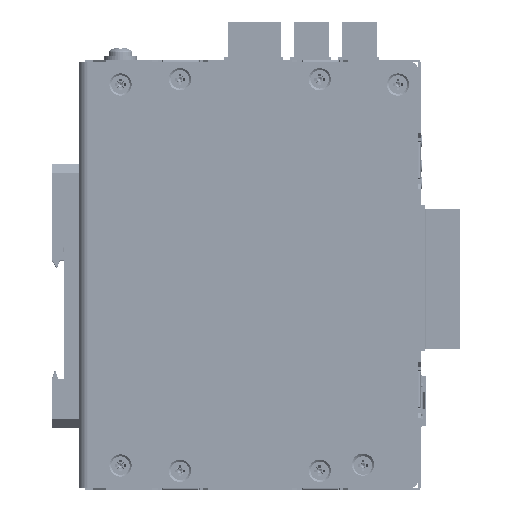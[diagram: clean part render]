
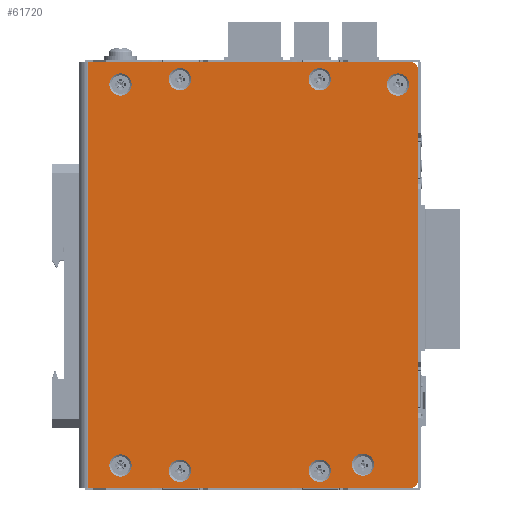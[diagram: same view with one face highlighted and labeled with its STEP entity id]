
A CAD part, left-side view. The second image highlights one B-rep face of the part: STEP entity #61720.
In plain terms, the highlighted planar face has unit normal (-1, 0, 0).
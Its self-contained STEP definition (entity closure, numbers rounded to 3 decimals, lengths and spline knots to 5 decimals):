
#7114=LINE('',#113969,#12700);
#7119=LINE('',#113979,#12705);
#7120=LINE('',#113980,#12706);
#7121=LINE('',#113981,#12707);
#12700=VECTOR('',#84941,1.);
#12705=VECTOR('',#84952,1.);
#12706=VECTOR('',#84953,1.);
#12707=VECTOR('',#84954,1.);
#14774=PLANE('',#67994);
#32775=ORIENTED_EDGE('',*,*,#41519,.F.);
#32776=ORIENTED_EDGE('',*,*,#41454,.T.);
#32777=ORIENTED_EDGE('',*,*,#41520,.T.);
#32778=ORIENTED_EDGE('',*,*,#41446,.T.);
#32779=ORIENTED_EDGE('',*,*,#41521,.T.);
#32780=ORIENTED_EDGE('',*,*,#41513,.T.);
#32781=ORIENTED_EDGE('',*,*,#41488,.F.);
#32782=ORIENTED_EDGE('',*,*,#41485,.F.);
#32783=ORIENTED_EDGE('',*,*,#41482,.F.);
#32784=ORIENTED_EDGE('',*,*,#41479,.F.);
#32785=ORIENTED_EDGE('',*,*,#41476,.F.);
#32786=ORIENTED_EDGE('',*,*,#41473,.F.);
#32787=ORIENTED_EDGE('',*,*,#41470,.F.);
#32788=ORIENTED_EDGE('',*,*,#41467,.F.);
#41446=EDGE_CURVE('',#47348,#47347,#49660,.T.);
#41454=EDGE_CURVE('',#47356,#47355,#49664,.T.);
#41467=EDGE_CURVE('',#47368,#47368,#49674,.T.);
#41470=EDGE_CURVE('',#47371,#47371,#49677,.T.);
#41473=EDGE_CURVE('',#47374,#47374,#49680,.T.);
#41476=EDGE_CURVE('',#47377,#47377,#49683,.T.);
#41479=EDGE_CURVE('',#47380,#47380,#49686,.T.);
#41482=EDGE_CURVE('',#47383,#47383,#49689,.T.);
#41485=EDGE_CURVE('',#47386,#47386,#49692,.T.);
#41488=EDGE_CURVE('',#47389,#47389,#49695,.T.);
#41513=EDGE_CURVE('',#47415,#47414,#7114,.T.);
#41519=EDGE_CURVE('',#47356,#47414,#7119,.T.);
#41520=EDGE_CURVE('',#47355,#47348,#7120,.T.);
#41521=EDGE_CURVE('',#47347,#47415,#7121,.T.);
#47347=VERTEX_POINT('',#113798);
#47348=VERTEX_POINT('',#113800);
#47355=VERTEX_POINT('',#113816);
#47356=VERTEX_POINT('',#113818);
#47368=VERTEX_POINT('',#113849);
#47371=VERTEX_POINT('',#113857);
#47374=VERTEX_POINT('',#113865);
#47377=VERTEX_POINT('',#113873);
#47380=VERTEX_POINT('',#113881);
#47383=VERTEX_POINT('',#113889);
#47386=VERTEX_POINT('',#113897);
#47389=VERTEX_POINT('',#113905);
#47414=VERTEX_POINT('',#113968);
#47415=VERTEX_POINT('',#113970);
#49660=CIRCLE('',#67898,0.00254);
#49664=CIRCLE('',#67904,0.00254);
#49674=CIRCLE('',#67920,0.00324);
#49677=CIRCLE('',#67925,0.00324);
#49680=CIRCLE('',#67930,0.00324);
#49683=CIRCLE('',#67935,0.00324);
#49686=CIRCLE('',#67940,0.00324);
#49689=CIRCLE('',#67945,0.00324);
#49692=CIRCLE('',#67950,0.00324);
#49695=CIRCLE('',#67955,0.00324);
#53986=EDGE_LOOP('',(#32775,#32776,#32777,#32778,#32779,#32780));
#53987=EDGE_LOOP('',(#32781));
#53988=EDGE_LOOP('',(#32782));
#53989=EDGE_LOOP('',(#32783));
#53990=EDGE_LOOP('',(#32784));
#53991=EDGE_LOOP('',(#32785));
#53992=EDGE_LOOP('',(#32786));
#53993=EDGE_LOOP('',(#32787));
#53994=EDGE_LOOP('',(#32788));
#58289=FACE_BOUND('',#53986,.T.);
#58290=FACE_BOUND('',#53987,.T.);
#58291=FACE_BOUND('',#53988,.T.);
#58292=FACE_BOUND('',#53989,.T.);
#58293=FACE_BOUND('',#53990,.T.);
#58294=FACE_BOUND('',#53991,.T.);
#58295=FACE_BOUND('',#53992,.T.);
#58296=FACE_BOUND('',#53993,.T.);
#58297=FACE_BOUND('',#53994,.T.);
#61720=ADVANCED_FACE('',(#58289,#58290,#58291,#58292,#58293,#58294,#58295,
#58296,#58297),#14774,.T.);
#67898=AXIS2_PLACEMENT_3D('',#113799,#84744,#84745);
#67904=AXIS2_PLACEMENT_3D('',#113817,#84760,#84761);
#67920=AXIS2_PLACEMENT_3D('',#113848,#84795,#84796);
#67925=AXIS2_PLACEMENT_3D('',#113856,#84805,#84806);
#67930=AXIS2_PLACEMENT_3D('',#113864,#84815,#84816);
#67935=AXIS2_PLACEMENT_3D('',#113872,#84825,#84826);
#67940=AXIS2_PLACEMENT_3D('',#113880,#84835,#84836);
#67945=AXIS2_PLACEMENT_3D('',#113888,#84845,#84846);
#67950=AXIS2_PLACEMENT_3D('',#113896,#84855,#84856);
#67955=AXIS2_PLACEMENT_3D('',#113904,#84865,#84866);
#67994=AXIS2_PLACEMENT_3D('',#113978,#84950,#84951);
#84744=DIRECTION('',(-1.,0.,0.));
#84745=DIRECTION('',(0.,0.,1.));
#84760=DIRECTION('',(-1.,0.,0.));
#84761=DIRECTION('',(0.,0.,1.));
#84795=DIRECTION('',(-1.,0.,0.));
#84796=DIRECTION('',(0.,0.,1.));
#84805=DIRECTION('',(-1.,0.,0.));
#84806=DIRECTION('',(0.,0.,1.));
#84815=DIRECTION('',(-1.,0.,0.));
#84816=DIRECTION('',(0.,0.,1.));
#84825=DIRECTION('',(-1.,0.,0.));
#84826=DIRECTION('',(0.,0.,1.));
#84835=DIRECTION('',(-1.,0.,0.));
#84836=DIRECTION('',(0.,0.,1.));
#84845=DIRECTION('',(-1.,0.,0.));
#84846=DIRECTION('',(0.,0.,1.));
#84855=DIRECTION('',(-1.,0.,0.));
#84856=DIRECTION('',(0.,0.,1.));
#84865=DIRECTION('',(-1.,0.,0.));
#84866=DIRECTION('',(0.,0.,1.));
#84941=DIRECTION('',(0.,0.,-1.));
#84950=DIRECTION('',(-1.,0.,0.));
#84951=DIRECTION('',(0.,0.,1.));
#84952=DIRECTION('',(0.,1.,0.));
#84953=DIRECTION('',(0.,0.,1.));
#84954=DIRECTION('',(0.,1.,0.));
#113798=CARTESIAN_POINT('',(-0.01524,-0.09449,0.06198));
#113799=CARTESIAN_POINT('',(-0.01524,-0.09449,0.05944));
#113800=CARTESIAN_POINT('',(-0.01524,-0.09703,0.05944));
#113816=CARTESIAN_POINT('',(-0.01524,-0.09703,-0.05944));
#113817=CARTESIAN_POINT('',(-0.01524,-0.09449,-0.05944));
#113818=CARTESIAN_POINT('',(-0.01524,-0.09449,-0.06198));
#113848=CARTESIAN_POINT('',(-0.01524,-0.02769,0.0569));
#113849=CARTESIAN_POINT('',(-0.01524,-0.02769,0.06013));
#113856=CARTESIAN_POINT('',(-0.01524,-0.06833,0.0569));
#113857=CARTESIAN_POINT('',(-0.01524,-0.06833,0.06013));
#113864=CARTESIAN_POINT('',(-0.01524,-0.09106,0.05537));
#113865=CARTESIAN_POINT('',(-0.01524,-0.09106,0.05861));
#113872=CARTESIAN_POINT('',(-0.01524,-0.0809,-0.05512));
#113873=CARTESIAN_POINT('',(-0.01524,-0.0809,-0.05188));
#113880=CARTESIAN_POINT('',(-0.01524,-0.06833,-0.0569));
#113881=CARTESIAN_POINT('',(-0.01524,-0.06833,-0.05366));
#113888=CARTESIAN_POINT('',(-0.01524,-0.02769,-0.0569));
#113889=CARTESIAN_POINT('',(-0.01524,-0.02769,-0.05366));
#113896=CARTESIAN_POINT('',(-0.01524,-0.01041,-0.05537));
#113897=CARTESIAN_POINT('',(-0.01524,-0.01041,-0.05213));
#113904=CARTESIAN_POINT('',(-0.01524,-0.01041,0.05537));
#113905=CARTESIAN_POINT('',(-0.01524,-0.01041,0.05861));
#113968=CARTESIAN_POINT('',(-0.01524,-0.00102,-0.06198));
#113969=CARTESIAN_POINT('',(-0.01524,-0.00102,0.));
#113970=CARTESIAN_POINT('',(-0.01524,-0.00102,0.06198));
#113978=CARTESIAN_POINT('',(-0.01524,-0.09703,0.));
#113979=CARTESIAN_POINT('',(-0.01524,0.,-0.06198));
#113980=CARTESIAN_POINT('',(-0.01524,-0.09703,0.));
#113981=CARTESIAN_POINT('',(-0.01524,-0.09703,0.06198));
